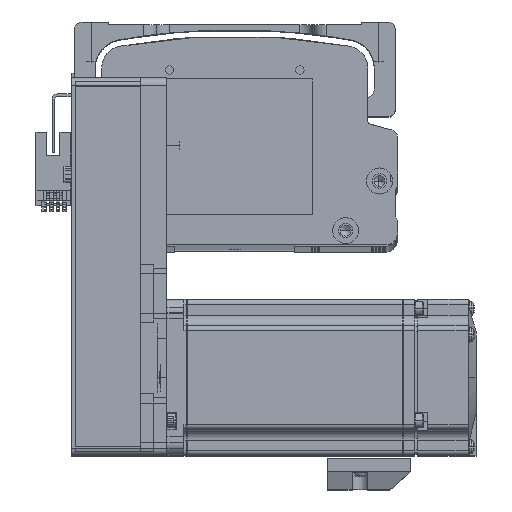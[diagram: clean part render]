
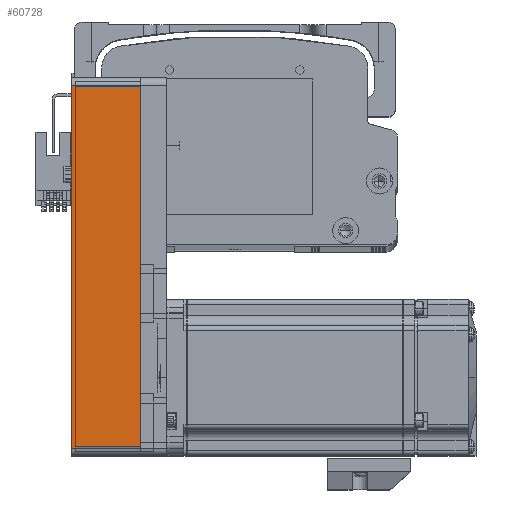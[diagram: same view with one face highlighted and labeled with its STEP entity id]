
A CAD part, top view. The second image highlights one B-rep face of the part: STEP entity #60728.
In plain terms, the highlighted planar face has unit normal (0, 0, 1) as drawn and (0, 1, 0) by its records, which use the part's own axes.
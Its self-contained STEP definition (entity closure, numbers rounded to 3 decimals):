
#1829 = EDGE_CURVE ( 'NONE', #21645, #32222, #38331, .T. ) ;
#2928 = LINE ( 'NONE', #46162, #34362 ) ;
#3468 = EDGE_LOOP ( 'NONE', ( #60623, #12016, #42640, #4771 ) ) ;
#4771 = ORIENTED_EDGE ( 'NONE', *, *, #12296, .T. ) ;
#8318 = FACE_OUTER_BOUND ( 'NONE', #3468, .T. ) ;
#12016 = ORIENTED_EDGE ( 'NONE', *, *, #48093, .T. ) ;
#12296 = EDGE_CURVE ( 'NONE', #27944, #21645, #41478, .T. ) ;
#18440 = CARTESIAN_POINT ( 'NONE',  ( 72.5, 30., 26.5 ) ) ;
#21645 = VERTEX_POINT ( 'NONE', #43232 ) ;
#24881 = PLANE ( 'NONE',  #53549 ) ;
#25188 = DIRECTION ( 'NONE',  ( 1., 0., 0. ) ) ;
#25829 = CARTESIAN_POINT ( 'NONE',  ( 72.5, 30., 0. ) ) ;
#26172 = CARTESIAN_POINT ( 'NONE',  ( 69.5, 30., 26.5 ) ) ;
#26298 = DIRECTION ( 'NONE',  ( -1., 0., 0. ) ) ;
#27944 = VERTEX_POINT ( 'NONE', #26172 ) ;
#31565 = VECTOR ( 'NONE', #45752, 1000. ) ;
#32222 = VERTEX_POINT ( 'NONE', #55182 ) ;
#34362 = VECTOR ( 'NONE', #26298, 1000. ) ;
#38331 = LINE ( 'NONE', #25829, #53958 ) ;
#38748 = CARTESIAN_POINT ( 'NONE',  ( -69.5, 30., 26.5 ) ) ;
#39378 = VECTOR ( 'NONE', #80314, 1000. ) ;
#41478 = LINE ( 'NONE', #73591, #39378 ) ;
#42640 = ORIENTED_EDGE ( 'NONE', *, *, #76403, .F. ) ;
#43232 = CARTESIAN_POINT ( 'NONE',  ( 69.5, 30., 0. ) ) ;
#43927 = VERTEX_POINT ( 'NONE', #70177 ) ;
#45752 = DIRECTION ( 'NONE',  ( 0., 0., 1. ) ) ;
#46162 = CARTESIAN_POINT ( 'NONE',  ( 72.5, 30., 26.5 ) ) ;
#48093 = EDGE_CURVE ( 'NONE', #32222, #43927, #67001, .T. ) ;
#53549 = AXIS2_PLACEMENT_3D ( 'NONE', #18440, #65130, #25188 ) ;
#53958 = VECTOR ( 'NONE', #72512, 1000. ) ;
#55182 = CARTESIAN_POINT ( 'NONE',  ( -69.5, 30., 0. ) ) ;
#60623 = ORIENTED_EDGE ( 'NONE', *, *, #1829, .T. ) ;
#60728 = ADVANCED_FACE ( 'NONE', ( #8318 ), #24881, .F. ) ;
#65130 = DIRECTION ( 'NONE',  ( 0., -1., 0. ) ) ;
#67001 = LINE ( 'NONE', #38748, #31565 ) ;
#70177 = CARTESIAN_POINT ( 'NONE',  ( -69.5, 30., 26.5 ) ) ;
#72512 = DIRECTION ( 'NONE',  ( -1., 0., 0. ) ) ;
#73591 = CARTESIAN_POINT ( 'NONE',  ( 69.5, 30., 26.5 ) ) ;
#76403 = EDGE_CURVE ( 'NONE', #27944, #43927, #2928, .T. ) ;
#80314 = DIRECTION ( 'NONE',  ( 0., 0., -1. ) ) ;
